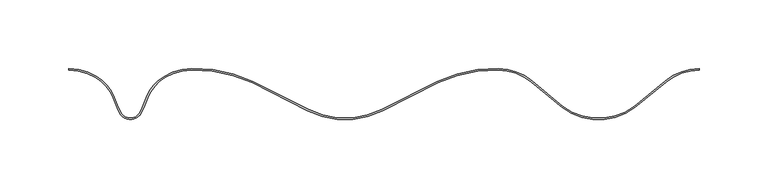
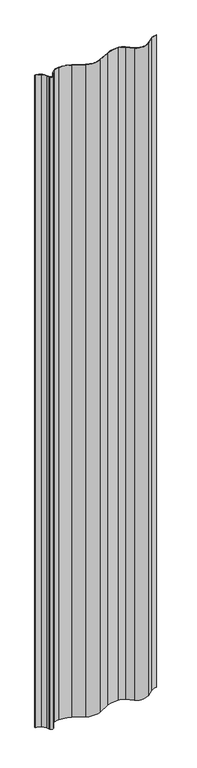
"""IFC4 building model written with IfcOpenShell, lengths in millimetres: plate geometry, Ritmica Couverture 457  : Ritmica Couverture 457 ."""

from ifc_helpers import new_model, si_unit, point, frame_2d, origin, origin_with_axes, place, context, project, spatial, polyline, circle_curve, trimmed, segment, composite_curve, outline, extrude, source, transform, mapped, element, save


def plate_edf22660(model_context):
    return source(origin(), model_context, "Body", "SweptSolid", [
        extrude(outline(composite_curve([segment(trimmed(circle_curve(frame_2d((-228.5020528, -1.5074152)), 37.4503244), [point((-208.9595512, 30.4396884))], [point((-228.5, 35.9429092))], True, "CARTESIAN"), True, "CONTINUOUS"), segment(polyline([(-228.5, 35.9429092), (-228.5, 36.9429092)]), True, "CONTINUOUS"), segment(trimmed(circle_curve(frame_2d((-228.5020528, -1.5074152)), 38.4503244), [point((-228.5, 36.9429092))], [point((-208.4377265, 31.2927412))], False, "CARTESIAN"), True, "CONTINUOUS"), segment(trimmed(circle_curve(frame_2d((-224.9360879, 4.3220457)), 31.6166783), [point((-208.4377265, 31.2927412))], [point((-195.5799601, 16.0622374))], False, "CARTESIAN"), True, "CONTINUOUS"), segment(polyline([(-195.5799601, 16.0622374), (-192.7111311, 8.8985546), (-191.0649656, 5.4637551)]), True, "CONTINUOUS"), segment(trimmed(circle_curve(frame_2d((-183.9757397, 8.8613445)), 7.8613445), [point((-191.0649656, 5.4637551))], [point((-176.8868864, 5.4629778))], True, "CARTESIAN"), True, "CONTINUOUS"), segment(polyline([(-176.8868864, 5.4629778), (-175.2403444, 8.8975968), (-172.3707299, 16.060965)]), True, "CONTINUOUS"), segment(trimmed(circle_curve(frame_2d((-143.0158895, 4.3175545)), 31.6166783), [point((-172.3707299, 16.060965))], [point((-159.5112935, 31.2900589))], False, "CARTESIAN"), True, "CONTINUOUS"), segment(trimmed(circle_curve(frame_2d((-139.4505638, -1.5122973)), 38.4503244), [point((-159.5112935, 31.2900589))], [point((-139.4662216, 36.9380239))], False, "CARTESIAN"), True, "CONTINUOUS"), segment(trimmed(circle_curve(frame_2d((-136.1527384, -57.297116)), 94.293376), [point((-139.4662216, 36.9380239))], [point((-95.2592435, 27.6673639))], False, "CARTESIAN"), True, "CONTINUOUS"), segment(polyline([(-95.2592435, 27.6673639), (-54.7140986, 7.2793217)]), True, "CONTINUOUS"), segment(trimmed(circle_curve(frame_2d((-28.2084709, 59.9903423)), 59.0), [point((-54.7140986, 7.2793217))], [point((-1.708623, 7.2764157))], True, "CARTESIAN"), True, "CONTINUOUS"), segment(polyline([(-1.708623, 7.2764157), (38.8387571, 27.6600121)]), True, "CONTINUOUS"), segment(trimmed(circle_curve(frame_2d((79.7229357, -57.308951)), 94.293376), [point((38.8387571, 27.6600121))], [point((83.0467525, 36.925825))], False, "CARTESIAN"), True, "CONTINUOUS"), segment(trimmed(circle_curve(frame_2d((83.0268952, -1.2055902)), 38.1314203), [point((83.0467525, 36.925825))], [point((107.4358676, 28.0895849))], False, "CARTESIAN"), True, "CONTINUOUS"), segment(polyline([(107.4358676, 28.0895849), (129.8455139, 9.4176897)]), True, "CONTINUOUS"), segment(trimmed(circle_curve(frame_2d((155.6564116, 43.9851845)), 43.1406321), [point((129.8455139, 9.4176897))], [point((181.4635189, 9.4148599))], True, "CARTESIAN"), True, "CONTINUOUS"), segment(polyline([(181.4635189, 9.4148599), (204.1775266, 28.0843912)]), True, "CONTINUOUS"), segment(trimmed(circle_curve(frame_2d((228.5832868, -1.2134601)), 38.1314203), [point((204.1775266, 28.0843912))], [point((228.5853773, 36.9179602))], False, "CARTESIAN"), True, "CONTINUOUS"), segment(polyline([(228.5853773, 36.9179602), (228.5856864, 35.9179602)]), True, "CONTINUOUS"), segment(trimmed(circle_curve(frame_2d((228.5832868, -1.2134601)), 37.1314203), [point((228.5856864, 35.9179602))], [point((204.8175699, 27.3160524))], True, "CARTESIAN"), True, "CONTINUOUS"), segment(polyline([(204.8175699, 27.3160524), (182.0832022, 8.6295606)]), True, "CONTINUOUS"), segment(trimmed(circle_curve(frame_2d((155.6564116, 43.9851845)), 44.1406321), [point((182.0832022, 8.6295606))], [point((129.2257445, 8.6324584))], False, "CARTESIAN"), True, "CONTINUOUS"), segment(polyline([(129.2257445, 8.6324584), (106.7957401, 27.3213162)]), True, "CONTINUOUS"), segment(trimmed(circle_curve(frame_2d((83.0268952, -1.2055902)), 37.1314203), [point((106.7957401, 27.3213162))], [point((83.0289309, 35.9258301))], True, "CARTESIAN"), True, "CONTINUOUS"), segment(trimmed(circle_curve(frame_2d((79.7229357, -57.308951)), 93.293376), [point((83.0289309, 35.9258301))], [point((39.2801371, 26.7626497))], True, "CARTESIAN"), True, "CONTINUOUS"), segment(polyline([(39.2801371, 26.7626497), (-1.2594731, 6.3829593)]), True, "CONTINUOUS"), segment(trimmed(circle_curve(frame_2d((-28.2084709, 59.9903423)), 60.0), [point((-1.2594731, 6.3829593))], [point((-55.1633465, 6.3859145))], False, "CARTESIAN"), True, "CONTINUOUS"), segment(polyline([(-55.1633465, 6.3859145), (-95.7007218, 26.7700498)]), True, "CONTINUOUS"), segment(trimmed(circle_curve(frame_2d((-136.1527384, -57.297116)), 93.293376), [point((-95.7007218, 26.7700498))], [point((-139.4485107, 35.938027))], True, "CARTESIAN"), True, "CONTINUOUS"), segment(trimmed(circle_curve(frame_2d((-139.4505638, -1.5122973)), 37.4503244), [point((-139.4485107, 35.938027))], [point((-158.9895624, 30.4369489))], True, "CARTESIAN"), True, "CONTINUOUS"), segment(trimmed(circle_curve(frame_2d((-143.0158895, 4.3175545)), 30.6166783), [point((-158.9895624, 30.4369489))], [point((-171.4423559, 15.6893176))], True, "CARTESIAN"), True, "CONTINUOUS"), segment(polyline([(-171.4423559, 15.6893176), (-174.3243362, 8.4950807), (-175.9851509, 5.0306896)]), True, "CONTINUOUS"), segment(trimmed(circle_curve(frame_2d((-183.9757397, 8.8613445)), 8.8613445), [point((-175.9851509, 5.0306896))], [point((-191.9667485, 5.0315657))], False, "CARTESIAN"), True, "CONTINUOUS"), segment(polyline([(-191.9667485, 5.0315657), (-193.6271833, 8.496139), (-196.5083748, 15.6906918)]), True, "CONTINUOUS"), segment(trimmed(circle_curve(frame_2d((-224.9360879, 4.3220457)), 30.6166783), [point((-196.5083748, 15.6906918))], [point((-208.9595512, 30.4396884))], True, "CARTESIAN"), True, "CONTINUOUS")], self_intersect=False)), origin_with_axes(), (0.0, 0.0, 1.0), 2588.190451),
    ])


if __name__ == "__main__":
    model = new_model("IFC4")
    model_context = context("Model", 3, world=origin())
    ifc_project = project(units=[si_unit("LENGTHUNIT", "METRE", prefix="MILLI")], contexts=[model_context])
    site = spatial("IfcSite", under=ifc_project)
    building = spatial("IfcBuilding", under=site)
    placement = place(None, origin())
    plate_shape = plate_edf22660(model_context)
    element("IfcPlate", 1, ObjectType="Ritmica Couverture 457  : Ritmica Couverture 457 ", at=placement, inside=building, context=model_context, shape_type="MappedRepresentation", body=[
        mapped(plate_shape, transform((0.0, 0.0, 0.0), x_axis=(1.0, 0.0, 0.0), y_axis=(0.0, 1.0, 0.0), z_axis=(0.0, 0.0, 1.0))),
    ])
    save(model, "model.ifc")
